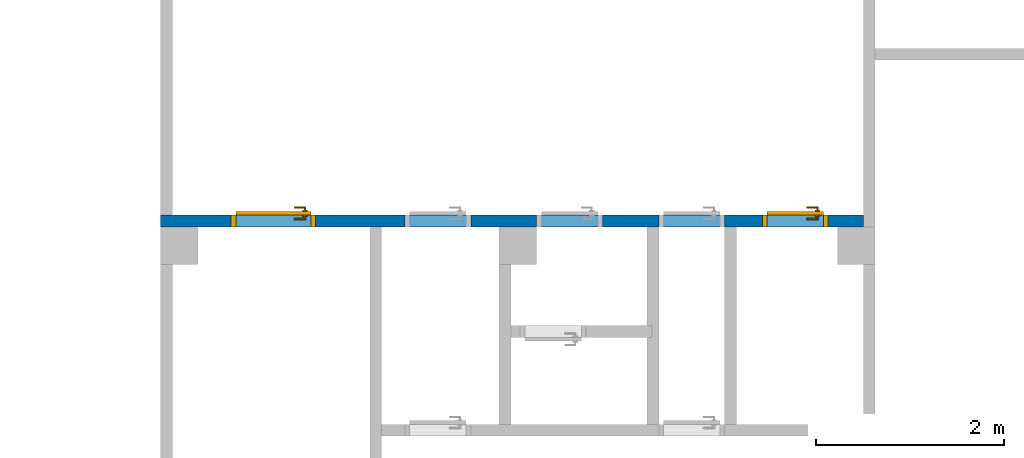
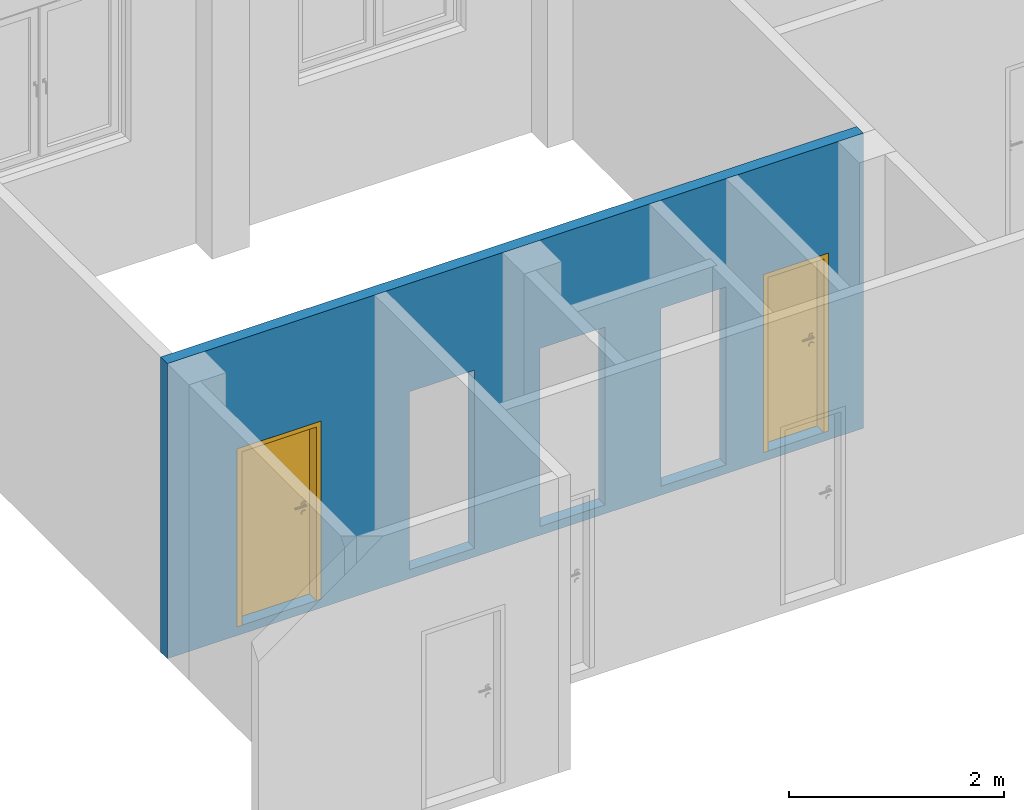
# One storey, part 4 of 37: 2 doors, 1 wall, 5 openings.
"""IFC4 building model written with IfcOpenShell, lengths in metres."""

from ifc_helpers import new_model, entity, si_unit, converted_unit, derived_unit, frame, frame_2d, origin, origin_with_axes, place, context, subcontext, project, spatial, polyline, rectangle, outline, extrude, closed_shell, open_shell, surface_model, source, transform, mapped, material, layer, layer_set, layer_usage, type_object, element, fill, save


model = new_model("IFC4")

# Units and contexts
model_context = context("Model", 3, precision=1e-05, world=origin())
body_context = subcontext(model_context, "Body", "Model", "MODEL_VIEW")
ifc_project = project(units=[si_unit("LENGTHUNIT", "METRE"), si_unit("AREAUNIT", "SQUARE_METRE"), si_unit("VOLUMEUNIT", "CUBIC_METRE"), si_unit("MASSUNIT", "GRAM", prefix="KILO"), converted_unit("PLANEANGLEUNIT", "DEGREE", entity("IfcPlaneAngleMeasure", 0.0174532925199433), si_unit("PLANEANGLEUNIT", "RADIAN"), dimensions=[0, 0, 0, 0, 0, 0, 0]), derived_unit("THERMALTRANSMITTANCEUNIT", [(si_unit("POWERUNIT", "WATT"), 1), (si_unit("THERMODYNAMICTEMPERATUREUNIT", "KELVIN"), -1), (si_unit("LENGTHUNIT", "METRE"), -2)]), derived_unit("VOLUMETRICFLOWRATEUNIT", [(si_unit("LENGTHUNIT", "METRE"), 3), (converted_unit("TIMEUNIT", "hour", entity("IfcTimeMeasure", 3600.0), si_unit("TIMEUNIT", "SECOND"), dimensions=[0, 0, 1, 0, 0, 0, 0]), -1), (si_unit("LENGTHUNIT", "METRE"), -1)])], contexts=[model_context])

# Site, building, storey
site_placement = place(None, origin())
site = spatial("IfcSite", under=ifc_project, at=site_placement, Name="3. ASŘ", CompositionType="ELEMENT")
building_placement = place(site_placement, origin())
building = spatial("IfcBuilding", under=site, at=building_placement, Name="Pavilon B", CompositionType="ELEMENT")
storey_placement = place(building_placement, origin())
storey = spatial("IfcBuildingStorey", under=building, at=storey_placement, Name="Půdorys 1.NP", CompositionType="ELEMENT", Elevation=0.0)

# Wall, openings, doors
ifc_material = material(Name="ZDIVO Z CDm")
ifc_layer = layer(ifc_material, 0.125)
ifc_layer_set = layer_set([ifc_layer])
ifc_layer_usage = layer_usage(ifc_layer_set, "AXIS2", "POSITIVE", 0.0)
wall_placement = place(storey_placement, frame((13.6, -21.4, -0.1)))
wall = element("IfcWall", 1, at=wall_placement, inside=storey, material=ifc_layer_usage, Name="ZDIVO Z CDm", context=body_context, shape_type="SweptSolid", body=[
    extrude(rectangle(XDim=7.475, YDim=0.125, at=frame_2d((3.7375, 0.0625), x_axis=(1.0, 0.0))), origin_with_axes(), (0.0, 0.0, 1.0), 3.35),
])
opening_1_placement = place(wall_placement, frame((7.1, 0.125, 0.1), z_axis=(0.0, -1.0, 0.0), x_axis=(0.0, 0.0, 1.0)))
opening_1 = element("IfcOpeningElement", 2, at=opening_1_placement, cuts=wall, Name="Dveřní otvor", ObjectType="Opening", context=body_context, shape_type="SweptSolid", body=[
    extrude(outline(polyline([(0.0, 0.7), (2.02, 0.7), (2.02, 0.0), (0.0, 0.0), (0.0, 0.7)])), origin_with_axes(), (0.0, 0.0, 1.0), 0.125),
])
opening_2_placement = place(wall_placement, frame((1.65, 0.125, 0.1), z_axis=(0.0, -1.0, 0.0), x_axis=(0.0, 0.0, 1.0)))
opening_2 = element("IfcOpeningElement", 3, at=opening_2_placement, cuts=wall, Name="Dveřní otvor", ObjectType="Opening", context=body_context, shape_type="SweptSolid", body=[
    extrude(outline(polyline([(0.0, 0.9), (2.02, 0.9), (2.02, 0.0), (0.0, 0.0), (0.0, 0.9)])), origin_with_axes(), (0.0, 0.0, 1.0), 0.125),
])
opening_3_placement = place(wall_placement, frame((3.3, 0.125, 0.1), z_axis=(0.0, -1.0, 0.0), x_axis=(0.0, 0.0, 1.0)))
element("IfcOpeningElement", 4, at=opening_3_placement, cuts=wall, Name="Dveřní otvor", ObjectType="Opening", context=body_context, shape_type="SweptSolid", body=[
    extrude(outline(polyline([(0.0, 0.700000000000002), (2.02, 0.700000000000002), (2.02, 0.0), (0.0, 0.0), (0.0, 0.700000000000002)])), origin_with_axes(), (0.0, 0.0, 1.0), 0.125),
])
opening_4_placement = place(wall_placement, frame((6.0, 0.125, 0.1), z_axis=(0.0, -1.0, 0.0), x_axis=(0.0, 0.0, 1.0)))
element("IfcOpeningElement", 5, at=opening_4_placement, cuts=wall, Name="Dveřní otvor", ObjectType="Opening", context=body_context, shape_type="SweptSolid", body=[
    extrude(outline(polyline([(0.0, 0.7), (2.02, 0.7), (2.02, 0.0), (0.0, 0.0), (0.0, 0.7)])), origin_with_axes(), (0.0, 0.0, 1.0), 0.125),
])
opening_5_placement = place(wall_placement, frame((4.7, 0.125, 0.1), z_axis=(0.0, -1.0, 0.0), x_axis=(0.0, 0.0, 1.0)))
element("IfcOpeningElement", 6, at=opening_5_placement, cuts=wall, Name="Dveřní otvor", ObjectType="Opening", context=body_context, shape_type="SweptSolid", body=[
    extrude(outline(polyline([(0.0, 0.7), (2.02, 0.7), (2.02, 0.0), (0.0, 0.0), (0.0, 0.7)])), origin_with_axes(), (0.0, 0.0, 1.0), 0.125),
])
door_type_1 = type_object("IfcDoorType", Name="D101", OperationType="NOTDEFINED", ParameterTakesPrecedence=False, PredefinedType="DOOR")
shared_shape_1 = source(origin_with_axes(), body_context, "Body", "SurfaceModel", [
    surface_model("IfcShellBasedSurfaceModel", [(0.0, 0.125, 2.02), (0.0, 0.125, -7.65404249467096e-18), (0.05, 0.125, -7.65404249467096e-18), (0.05, 0.125, 2.02), (0.0, 0.0, 7.65404249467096e-18), (0.0, 2.41584530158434e-16, 2.02), (0.05, 2.41584530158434e-16, 2.02), (0.05, 0.0, 7.65404249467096e-18)], [closed_shell([[[0, 1, 2, 3]], [[4, 5, 6, 7]], [[1, 0, 5, 4]], [[2, 1, 4, 7]], [[3, 2, 7, 6]], [[0, 3, 6, 5]]], orient=[[False], [False], [False], [False], [False], [False]])]),
    surface_model("IfcShellBasedSurfaceModel", [(0.65, 0.125, 2.02), (0.65, 0.125, -7.65404249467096e-18), (0.7, 0.125, -7.65404249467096e-18), (0.7, 0.125, 2.02), (0.65, 0.0, 7.65404249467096e-18), (0.65, 2.41584530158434e-16, 2.02), (0.7, 2.41584530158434e-16, 2.02), (0.7, 0.0, 7.65404249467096e-18)], [closed_shell([[[0, 1, 2, 3]], [[4, 5, 6, 7]], [[1, 0, 5, 4]], [[2, 1, 4, 7]], [[3, 2, 7, 6]], [[0, 3, 6, 5]]], orient=[[False], [False], [False], [False], [False], [False]])]),
    surface_model("IfcShellBasedSurfaceModel", [(0.05, 0.125, 2.02), (0.05, 0.125, 1.97), (0.65, 0.125, 1.97), (0.65, 0.125, 2.02), (0.05, 2.41584530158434e-16, 1.97), (0.05, 2.41584530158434e-16, 2.02), (0.65, 2.41584530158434e-16, 2.02), (0.65, 2.41584530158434e-16, 1.97)], [closed_shell([[[0, 1, 2, 3]], [[4, 5, 6, 7]], [[1, 0, 5, 4]], [[2, 1, 4, 7]], [[3, 2, 7, 6]], [[0, 3, 6, 5]]], orient=[[False], [False], [False], [False], [False], [False]])]),
    surface_model("IfcShellBasedSurfaceModel", [(0.05, 0.165, 1.97), (0.05, 0.165, -1.25526296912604e-17), (0.65, 0.165, -1.25526296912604e-17), (0.65, 0.165, 1.97), (0.05, 0.125, -7.65404249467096e-18), (0.05, 0.125, 1.97), (0.65, 0.125, 1.97), (0.65, 0.125, -7.65404249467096e-18)], [closed_shell([[[0, 1, 2, 3]], [[4, 5, 6, 7]], [[1, 0, 5, 4]], [[2, 1, 4, 7]], [[3, 2, 7, 6]], [[0, 3, 6, 5]]], orient=[[False], [False], [False], [False], [False], [False]])]),
    surface_model("IfcShellBasedSurfaceModel", [(0.608815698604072, 0.125, 0.93625), (0.6125, 0.125, 0.95), (0.608815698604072, 0.125, 0.96375), (0.59875, 0.125, 0.973815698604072), (0.585, 0.125, 0.9775), (0.57125, 0.125, 0.973815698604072), (0.561184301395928, 0.125, 0.96375), (0.5575, 0.125, 0.95), (0.561184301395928, 0.125, 0.93625), (0.57125, 0.125, 0.926184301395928), (0.585, 0.125, 0.9225), (0.59875, 0.125, 0.926184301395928), (0.6125, 0.1125, 0.95), (0.608815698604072, 0.1125, 0.93625), (0.59875, 0.1125, 0.926184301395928), (0.585, 0.1125, 0.9225), (0.57125, 0.1125, 0.926184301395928), (0.561184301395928, 0.1125, 0.93625), (0.5575, 0.1125, 0.95), (0.561184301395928, 0.1125, 0.96375), (0.57125, 0.1125, 0.973815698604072), (0.585, 0.1125, 0.9775), (0.59875, 0.1125, 0.973815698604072), (0.608815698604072, 0.1125, 0.96375)], [closed_shell([[[0, 1, 2, 3, 4, 5, 6, 7, 8, 9, 10, 11]], [[12, 13, 14, 15, 16, 17, 18, 19, 20, 21, 22, 23]], [[1, 0, 13, 12]], [[2, 1, 12, 23]], [[3, 2, 23, 22]], [[4, 3, 22, 21]], [[5, 4, 21, 20]], [[6, 5, 20, 19]], [[7, 6, 19, 18]], [[8, 7, 18, 17]], [[9, 8, 17, 16]], [[10, 9, 16, 15]], [[11, 10, 15, 14]], [[0, 11, 14, 13]]], orient=[[False], [False], [False], [False], [False], [False], [False], [False], [False], [False], [False], [False], [False], [False]])]),
    surface_model("IfcShellBasedSurfaceModel", [(0.608815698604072, 0.125, 1.03625), (0.6125, 0.125, 1.05), (0.608815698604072, 0.125, 1.06375), (0.59875, 0.125, 1.07381569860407), (0.585, 0.125, 1.0775), (0.57125, 0.125, 1.07381569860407), (0.561184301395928, 0.125, 1.06375), (0.5575, 0.125, 1.05), (0.561184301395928, 0.125, 1.03625), (0.57125, 0.125, 1.02618430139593), (0.585, 0.125, 1.0225), (0.59875, 0.125, 1.02618430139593), (0.6125, 0.1125, 1.05), (0.608815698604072, 0.1125, 1.03625), (0.59875, 0.1125, 1.02618430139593), (0.585, 0.1125, 1.0225), (0.57125, 0.1125, 1.02618430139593), (0.561184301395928, 0.1125, 1.03625), (0.5575, 0.1125, 1.05), (0.561184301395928, 0.1125, 1.06375), (0.57125, 0.1125, 1.07381569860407), (0.585, 0.1125, 1.0775), (0.59875, 0.1125, 1.07381569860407), (0.608815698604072, 0.1125, 1.06375)], [closed_shell([[[0, 1, 2, 3, 4, 5, 6, 7, 8, 9, 10, 11]], [[12, 13, 14, 15, 16, 17, 18, 19, 20, 21, 22, 23]], [[1, 0, 13, 12]], [[2, 1, 12, 23]], [[3, 2, 23, 22]], [[4, 3, 22, 21]], [[5, 4, 21, 20]], [[6, 5, 20, 19]], [[7, 6, 19, 18]], [[8, 7, 18, 17]], [[9, 8, 17, 16]], [[10, 9, 16, 15]], [[11, 10, 15, 14]], [[0, 11, 14, 13]]], orient=[[False], [False], [False], [False], [False], [False], [False], [False], [False], [False], [False], [False], [False], [False]])]),
    surface_model("IfcShellBasedSurfaceModel", [(0.585, 0.125, 1.06), (0.58, 0.125, 1.05866025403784), (0.576339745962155, 0.125, 1.055), (0.575, 0.125, 1.05), (0.576339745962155, 0.125, 1.045), (0.58, 0.125, 1.04133974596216), (0.585, 0.125, 1.04), (0.59, 0.125, 1.04133974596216), (0.593660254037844, 0.125, 1.045), (0.595, 0.125, 1.05), (0.593660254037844, 0.125, 1.055), (0.59, 0.125, 1.05866025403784), (0.59, 0.0800000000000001, 1.05866025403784), (0.585, 0.0850000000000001, 1.06), (0.593660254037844, 0.0763397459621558, 1.055), (0.595, 0.0750000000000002, 1.05), (0.593660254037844, 0.0763397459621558, 1.045), (0.59, 0.0800000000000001, 1.04133974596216), (0.585, 0.0850000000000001, 1.04), (0.58, 0.0900000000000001, 1.04133974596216), (0.576339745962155, 0.0936602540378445, 1.045), (0.575, 0.0950000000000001, 1.05), (0.576339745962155, 0.0936602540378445, 1.055), (0.58, 0.0900000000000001, 1.05866025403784), (0.47, 0.0800000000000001, 1.05866025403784), (0.47, 0.0850000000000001, 1.06), (0.47, 0.0763397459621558, 1.055), (0.47, 0.0750000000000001, 1.05), (0.47, 0.0763397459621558, 1.045), (0.47, 0.0800000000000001, 1.04133974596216), (0.47, 0.0850000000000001, 1.04), (0.47, 0.0900000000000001, 1.04133974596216), (0.47, 0.0936602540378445, 1.045), (0.47, 0.0950000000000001, 1.05), (0.47, 0.0936602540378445, 1.055), (0.47, 0.0900000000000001, 1.05866025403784)], [open_shell([[[0, 1, 2, 3, 4, 5, 6, 7, 8, 9, 10, 11]], [[0, 11, 12, 13]], [[11, 10, 14, 12]], [[10, 9, 15, 14]], [[9, 8, 16, 15]], [[8, 7, 17, 16]], [[7, 6, 18, 17]], [[6, 5, 19, 18]], [[5, 4, 20, 19]], [[4, 3, 21, 20]], [[3, 2, 22, 21]], [[2, 1, 23, 22]], [[1, 0, 13, 23]], [[13, 12, 24, 25]], [[12, 14, 26, 24]], [[14, 15, 27, 26]], [[15, 16, 28, 27]], [[16, 17, 29, 28]], [[17, 18, 30, 29]], [[18, 19, 31, 30]], [[19, 20, 32, 31]], [[20, 21, 33, 32]], [[21, 22, 34, 33]], [[22, 23, 35, 34]], [[23, 13, 25, 35]]], orient=[[False], [False], [False], [False], [False], [False], [False], [False], [False], [False], [False], [False], [False], [False], [False], [False], [False], [False], [False], [False], [False], [False], [False], [False], [False]])]),
    surface_model("IfcShellBasedSurfaceModel", [(0.608815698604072, 0.165, 0.93625), (0.59875, 0.165, 0.926184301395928), (0.585, 0.165, 0.9225), (0.57125, 0.165, 0.926184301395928), (0.561184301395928, 0.165, 0.93625), (0.5575, 0.165, 0.95), (0.561184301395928, 0.165, 0.96375), (0.57125, 0.165, 0.973815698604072), (0.585, 0.165, 0.9775), (0.59875, 0.165, 0.973815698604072), (0.608815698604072, 0.165, 0.96375), (0.6125, 0.165, 0.95), (0.6125, 0.1775, 0.95), (0.608815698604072, 0.1775, 0.96375), (0.59875, 0.1775, 0.973815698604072), (0.585, 0.1775, 0.9775), (0.57125, 0.1775, 0.973815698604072), (0.561184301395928, 0.1775, 0.96375), (0.5575, 0.1775, 0.95), (0.561184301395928, 0.1775, 0.93625), (0.57125, 0.1775, 0.926184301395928), (0.585, 0.1775, 0.9225), (0.59875, 0.1775, 0.926184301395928), (0.608815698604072, 0.1775, 0.93625)], [closed_shell([[[0, 1, 2, 3, 4, 5, 6, 7, 8, 9, 10, 11]], [[12, 13, 14, 15, 16, 17, 18, 19, 20, 21, 22, 23]], [[11, 12, 23, 0]], [[10, 13, 12, 11]], [[9, 14, 13, 10]], [[8, 15, 14, 9]], [[7, 16, 15, 8]], [[6, 17, 16, 7]], [[5, 18, 17, 6]], [[4, 19, 18, 5]], [[3, 20, 19, 4]], [[2, 21, 20, 3]], [[1, 22, 21, 2]], [[0, 23, 22, 1]]], orient=[[False], [False], [False], [False], [False], [False], [False], [False], [False], [False], [False], [False], [False], [False]])]),
    surface_model("IfcShellBasedSurfaceModel", [(0.608815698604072, 0.165, 1.03625), (0.59875, 0.165, 1.02618430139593), (0.585, 0.165, 1.0225), (0.57125, 0.165, 1.02618430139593), (0.561184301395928, 0.165, 1.03625), (0.5575, 0.165, 1.05), (0.561184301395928, 0.165, 1.06375), (0.57125, 0.165, 1.07381569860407), (0.585, 0.165, 1.0775), (0.59875, 0.165, 1.07381569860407), (0.608815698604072, 0.165, 1.06375), (0.6125, 0.165, 1.05), (0.6125, 0.1775, 1.05), (0.608815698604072, 0.1775, 1.06375), (0.59875, 0.1775, 1.07381569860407), (0.585, 0.1775, 1.0775), (0.57125, 0.1775, 1.07381569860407), (0.561184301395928, 0.1775, 1.06375), (0.5575, 0.1775, 1.05), (0.561184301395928, 0.1775, 1.03625), (0.57125, 0.1775, 1.02618430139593), (0.585, 0.1775, 1.0225), (0.59875, 0.1775, 1.02618430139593), (0.608815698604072, 0.1775, 1.03625)], [closed_shell([[[0, 1, 2, 3, 4, 5, 6, 7, 8, 9, 10, 11]], [[12, 13, 14, 15, 16, 17, 18, 19, 20, 21, 22, 23]], [[11, 12, 23, 0]], [[10, 13, 12, 11]], [[9, 14, 13, 10]], [[8, 15, 14, 9]], [[7, 16, 15, 8]], [[6, 17, 16, 7]], [[5, 18, 17, 6]], [[4, 19, 18, 5]], [[3, 20, 19, 4]], [[2, 21, 20, 3]], [[1, 22, 21, 2]], [[0, 23, 22, 1]]], orient=[[False], [False], [False], [False], [False], [False], [False], [False], [False], [False], [False], [False], [False], [False]])]),
    surface_model("IfcShellBasedSurfaceModel", [(0.585, 0.165, 1.06), (0.59, 0.165, 1.05866025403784), (0.593660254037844, 0.165, 1.055), (0.595, 0.165, 1.05), (0.593660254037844, 0.165, 1.045), (0.59, 0.165, 1.04133974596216), (0.585, 0.165, 1.04), (0.58, 0.165, 1.04133974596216), (0.576339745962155, 0.165, 1.045), (0.575, 0.165, 1.05), (0.576339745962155, 0.165, 1.055), (0.58, 0.165, 1.05866025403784), (0.585, 0.205, 1.06), (0.59, 0.21, 1.05866025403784), (0.593660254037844, 0.213660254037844, 1.055), (0.595, 0.215, 1.05), (0.593660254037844, 0.213660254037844, 1.045), (0.59, 0.21, 1.04133974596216), (0.585, 0.205, 1.04), (0.58, 0.2, 1.04133974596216), (0.576339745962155, 0.196339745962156, 1.045), (0.575, 0.195, 1.05), (0.576339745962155, 0.196339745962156, 1.055), (0.58, 0.2, 1.05866025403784), (0.47, 0.205, 1.06), (0.47, 0.21, 1.05866025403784), (0.47, 0.213660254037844, 1.055), (0.47, 0.215, 1.05), (0.47, 0.213660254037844, 1.045), (0.47, 0.21, 1.04133974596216), (0.47, 0.205, 1.04), (0.47, 0.2, 1.04133974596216), (0.47, 0.196339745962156, 1.045), (0.47, 0.195, 1.05), (0.47, 0.196339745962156, 1.055), (0.47, 0.2, 1.05866025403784)], [open_shell([[[0, 1, 2, 3, 4, 5, 6, 7, 8, 9, 10, 11]], [[0, 12, 13, 1]], [[1, 13, 14, 2]], [[2, 14, 15, 3]], [[3, 15, 16, 4]], [[4, 16, 17, 5]], [[5, 17, 18, 6]], [[6, 18, 19, 7]], [[7, 19, 20, 8]], [[8, 20, 21, 9]], [[9, 21, 22, 10]], [[10, 22, 23, 11]], [[11, 23, 12, 0]], [[12, 24, 25, 13]], [[13, 25, 26, 14]], [[14, 26, 27, 15]], [[15, 27, 28, 16]], [[16, 28, 29, 17]], [[17, 29, 30, 18]], [[18, 30, 31, 19]], [[19, 31, 32, 20]], [[20, 32, 33, 21]], [[21, 33, 34, 22]], [[22, 34, 35, 23]], [[23, 35, 24, 12]]], orient=[[False], [False], [False], [False], [False], [False], [False], [False], [False], [False], [False], [False], [False], [False], [False], [False], [False], [False], [False], [False], [False], [False], [False], [False], [False]])]),
])
door_1_placement = place(opening_1_placement, frame((0.0, 0.7, 0.125), z_axis=(1.0, 0.0, 0.0), x_axis=(0.0, -1.0, 2.44929359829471e-16)))
door_1 = element("IfcDoor", 7, at=door_1_placement, inside=storey, type_object=door_type_1, Name="D101", OverallHeight=2.02, OverallWidth=0.7, context=body_context, shape_type="MappedRepresentation", body=[
    mapped(shared_shape_1, transform((0.0, 0.0, 0.0), x_axis=(1.0, 0.0, 0.0), y_axis=(0.0, 1.0, 0.0), z_axis=(0.0, 0.0, 1.0), scale=1.0)),
])
fill(opening_1, door_1)
door_type_2 = type_object("IfcDoorType", Name="D101", OperationType="NOTDEFINED", ParameterTakesPrecedence=False, PredefinedType="DOOR")
shared_shape_2 = source(origin_with_axes(), body_context, "Body", "SurfaceModel", [
    surface_model("IfcShellBasedSurfaceModel", [(0.0, 0.125, 2.02), (0.0, 0.125, -7.65404249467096e-18), (0.05, 0.125, -7.65404249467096e-18), (0.05, 0.125, 2.02), (0.0, 0.0, 7.65404249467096e-18), (0.0, 2.41584530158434e-16, 2.02), (0.05, 2.41584530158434e-16, 2.02), (0.05, 0.0, 7.65404249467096e-18)], [closed_shell([[[0, 1, 2, 3]], [[4, 5, 6, 7]], [[1, 0, 5, 4]], [[2, 1, 4, 7]], [[3, 2, 7, 6]], [[0, 3, 6, 5]]], orient=[[False], [False], [False], [False], [False], [False]])]),
    surface_model("IfcShellBasedSurfaceModel", [(0.85, 0.125, 2.02), (0.85, 0.125, -7.65404249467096e-18), (0.9, 0.125, -7.65404249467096e-18), (0.9, 0.125, 2.02), (0.85, 0.0, 7.65404249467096e-18), (0.85, 2.41584530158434e-16, 2.02), (0.9, 2.41584530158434e-16, 2.02), (0.9, 0.0, 7.65404249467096e-18)], [closed_shell([[[0, 1, 2, 3]], [[4, 5, 6, 7]], [[1, 0, 5, 4]], [[2, 1, 4, 7]], [[3, 2, 7, 6]], [[0, 3, 6, 5]]], orient=[[False], [False], [False], [False], [False], [False]])]),
    surface_model("IfcShellBasedSurfaceModel", [(0.05, 0.125, 2.02), (0.05, 0.125, 1.97), (0.85, 0.125, 1.97), (0.85, 0.125, 2.02), (0.05, 2.41584530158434e-16, 1.97), (0.05, 2.41584530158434e-16, 2.02), (0.85, 2.41584530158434e-16, 2.02), (0.85, 2.41584530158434e-16, 1.97)], [closed_shell([[[0, 1, 2, 3]], [[4, 5, 6, 7]], [[1, 0, 5, 4]], [[2, 1, 4, 7]], [[3, 2, 7, 6]], [[0, 3, 6, 5]]], orient=[[False], [False], [False], [False], [False], [False]])]),
    surface_model("IfcShellBasedSurfaceModel", [(0.05, 0.165, 1.97), (0.05, 0.165, -1.25526296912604e-17), (0.85, 0.165, -1.25526296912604e-17), (0.85, 0.165, 1.97), (0.05, 0.125, -7.65404249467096e-18), (0.05, 0.125, 1.97), (0.85, 0.125, 1.97), (0.85, 0.125, -7.65404249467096e-18)], [closed_shell([[[0, 1, 2, 3]], [[4, 5, 6, 7]], [[1, 0, 5, 4]], [[2, 1, 4, 7]], [[3, 2, 7, 6]], [[0, 3, 6, 5]]], orient=[[False], [False], [False], [False], [False], [False]])]),
    surface_model("IfcShellBasedSurfaceModel", [(0.808815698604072, 0.125, 0.93625), (0.8125, 0.125, 0.95), (0.808815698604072, 0.125, 0.96375), (0.79875, 0.125, 0.973815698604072), (0.785, 0.125, 0.9775), (0.77125, 0.125, 0.973815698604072), (0.761184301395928, 0.125, 0.96375), (0.7575, 0.125, 0.95), (0.761184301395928, 0.125, 0.93625), (0.77125, 0.125, 0.926184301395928), (0.785, 0.125, 0.9225), (0.79875, 0.125, 0.926184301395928), (0.8125, 0.1125, 0.95), (0.808815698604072, 0.1125, 0.93625), (0.79875, 0.1125, 0.926184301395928), (0.785, 0.1125, 0.9225), (0.77125, 0.1125, 0.926184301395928), (0.761184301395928, 0.1125, 0.93625), (0.7575, 0.1125, 0.95), (0.761184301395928, 0.1125, 0.96375), (0.77125, 0.1125, 0.973815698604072), (0.785, 0.1125, 0.9775), (0.79875, 0.1125, 0.973815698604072), (0.808815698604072, 0.1125, 0.96375)], [closed_shell([[[0, 1, 2, 3, 4, 5, 6, 7, 8, 9, 10, 11]], [[12, 13, 14, 15, 16, 17, 18, 19, 20, 21, 22, 23]], [[1, 0, 13, 12]], [[2, 1, 12, 23]], [[3, 2, 23, 22]], [[4, 3, 22, 21]], [[5, 4, 21, 20]], [[6, 5, 20, 19]], [[7, 6, 19, 18]], [[8, 7, 18, 17]], [[9, 8, 17, 16]], [[10, 9, 16, 15]], [[11, 10, 15, 14]], [[0, 11, 14, 13]]], orient=[[False], [False], [False], [False], [False], [False], [False], [False], [False], [False], [False], [False], [False], [False]])]),
    surface_model("IfcShellBasedSurfaceModel", [(0.808815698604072, 0.125, 1.03625), (0.8125, 0.125, 1.05), (0.808815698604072, 0.125, 1.06375), (0.79875, 0.125, 1.07381569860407), (0.785, 0.125, 1.0775), (0.77125, 0.125, 1.07381569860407), (0.761184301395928, 0.125, 1.06375), (0.7575, 0.125, 1.05), (0.761184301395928, 0.125, 1.03625), (0.77125, 0.125, 1.02618430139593), (0.785, 0.125, 1.0225), (0.79875, 0.125, 1.02618430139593), (0.8125, 0.1125, 1.05), (0.808815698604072, 0.1125, 1.03625), (0.79875, 0.1125, 1.02618430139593), (0.785, 0.1125, 1.0225), (0.77125, 0.1125, 1.02618430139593), (0.761184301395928, 0.1125, 1.03625), (0.7575, 0.1125, 1.05), (0.761184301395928, 0.1125, 1.06375), (0.77125, 0.1125, 1.07381569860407), (0.785, 0.1125, 1.0775), (0.79875, 0.1125, 1.07381569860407), (0.808815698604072, 0.1125, 1.06375)], [closed_shell([[[0, 1, 2, 3, 4, 5, 6, 7, 8, 9, 10, 11]], [[12, 13, 14, 15, 16, 17, 18, 19, 20, 21, 22, 23]], [[1, 0, 13, 12]], [[2, 1, 12, 23]], [[3, 2, 23, 22]], [[4, 3, 22, 21]], [[5, 4, 21, 20]], [[6, 5, 20, 19]], [[7, 6, 19, 18]], [[8, 7, 18, 17]], [[9, 8, 17, 16]], [[10, 9, 16, 15]], [[11, 10, 15, 14]], [[0, 11, 14, 13]]], orient=[[False], [False], [False], [False], [False], [False], [False], [False], [False], [False], [False], [False], [False], [False]])]),
    surface_model("IfcShellBasedSurfaceModel", [(0.785, 0.125, 1.06), (0.78, 0.125, 1.05866025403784), (0.776339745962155, 0.125, 1.055), (0.775, 0.125, 1.05), (0.776339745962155, 0.125, 1.045), (0.78, 0.125, 1.04133974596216), (0.785, 0.125, 1.04), (0.79, 0.125, 1.04133974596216), (0.793660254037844, 0.125, 1.045), (0.795, 0.125, 1.05), (0.793660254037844, 0.125, 1.055), (0.79, 0.125, 1.05866025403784), (0.79, 0.0800000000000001, 1.05866025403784), (0.785, 0.0850000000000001, 1.06), (0.793660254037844, 0.0763397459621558, 1.055), (0.795, 0.0750000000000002, 1.05), (0.793660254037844, 0.0763397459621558, 1.045), (0.79, 0.0800000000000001, 1.04133974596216), (0.785, 0.0850000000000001, 1.04), (0.78, 0.0900000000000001, 1.04133974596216), (0.776339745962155, 0.0936602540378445, 1.045), (0.775, 0.0950000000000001, 1.05), (0.776339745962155, 0.0936602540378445, 1.055), (0.78, 0.0900000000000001, 1.05866025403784), (0.67, 0.0800000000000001, 1.05866025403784), (0.67, 0.0850000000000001, 1.06), (0.67, 0.0763397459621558, 1.055), (0.67, 0.0750000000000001, 1.05), (0.67, 0.0763397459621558, 1.045), (0.67, 0.0800000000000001, 1.04133974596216), (0.67, 0.0850000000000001, 1.04), (0.67, 0.0900000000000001, 1.04133974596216), (0.67, 0.0936602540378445, 1.045), (0.67, 0.0950000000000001, 1.05), (0.67, 0.0936602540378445, 1.055), (0.67, 0.0900000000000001, 1.05866025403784)], [open_shell([[[0, 1, 2, 3, 4, 5, 6, 7, 8, 9, 10, 11]], [[0, 11, 12, 13]], [[11, 10, 14, 12]], [[10, 9, 15, 14]], [[9, 8, 16, 15]], [[8, 7, 17, 16]], [[7, 6, 18, 17]], [[6, 5, 19, 18]], [[5, 4, 20, 19]], [[4, 3, 21, 20]], [[3, 2, 22, 21]], [[2, 1, 23, 22]], [[1, 0, 13, 23]], [[13, 12, 24, 25]], [[12, 14, 26, 24]], [[14, 15, 27, 26]], [[15, 16, 28, 27]], [[16, 17, 29, 28]], [[17, 18, 30, 29]], [[18, 19, 31, 30]], [[19, 20, 32, 31]], [[20, 21, 33, 32]], [[21, 22, 34, 33]], [[22, 23, 35, 34]], [[23, 13, 25, 35]]], orient=[[False], [False], [False], [False], [False], [False], [False], [False], [False], [False], [False], [False], [False], [False], [False], [False], [False], [False], [False], [False], [False], [False], [False], [False], [False]])]),
    surface_model("IfcShellBasedSurfaceModel", [(0.808815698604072, 0.165, 0.93625), (0.79875, 0.165, 0.926184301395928), (0.785, 0.165, 0.9225), (0.77125, 0.165, 0.926184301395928), (0.761184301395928, 0.165, 0.93625), (0.7575, 0.165, 0.95), (0.761184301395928, 0.165, 0.96375), (0.77125, 0.165, 0.973815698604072), (0.785, 0.165, 0.9775), (0.79875, 0.165, 0.973815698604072), (0.808815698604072, 0.165, 0.96375), (0.8125, 0.165, 0.95), (0.8125, 0.1775, 0.95), (0.808815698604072, 0.1775, 0.96375), (0.79875, 0.1775, 0.973815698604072), (0.785, 0.1775, 0.9775), (0.77125, 0.1775, 0.973815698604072), (0.761184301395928, 0.1775, 0.96375), (0.7575, 0.1775, 0.95), (0.761184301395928, 0.1775, 0.93625), (0.77125, 0.1775, 0.926184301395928), (0.785, 0.1775, 0.9225), (0.79875, 0.1775, 0.926184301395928), (0.808815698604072, 0.1775, 0.93625)], [closed_shell([[[0, 1, 2, 3, 4, 5, 6, 7, 8, 9, 10, 11]], [[12, 13, 14, 15, 16, 17, 18, 19, 20, 21, 22, 23]], [[11, 12, 23, 0]], [[10, 13, 12, 11]], [[9, 14, 13, 10]], [[8, 15, 14, 9]], [[7, 16, 15, 8]], [[6, 17, 16, 7]], [[5, 18, 17, 6]], [[4, 19, 18, 5]], [[3, 20, 19, 4]], [[2, 21, 20, 3]], [[1, 22, 21, 2]], [[0, 23, 22, 1]]], orient=[[False], [False], [False], [False], [False], [False], [False], [False], [False], [False], [False], [False], [False], [False]])]),
    surface_model("IfcShellBasedSurfaceModel", [(0.808815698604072, 0.165, 1.03625), (0.79875, 0.165, 1.02618430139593), (0.785, 0.165, 1.0225), (0.77125, 0.165, 1.02618430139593), (0.761184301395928, 0.165, 1.03625), (0.7575, 0.165, 1.05), (0.761184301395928, 0.165, 1.06375), (0.77125, 0.165, 1.07381569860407), (0.785, 0.165, 1.0775), (0.79875, 0.165, 1.07381569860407), (0.808815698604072, 0.165, 1.06375), (0.8125, 0.165, 1.05), (0.8125, 0.1775, 1.05), (0.808815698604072, 0.1775, 1.06375), (0.79875, 0.1775, 1.07381569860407), (0.785, 0.1775, 1.0775), (0.77125, 0.1775, 1.07381569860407), (0.761184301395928, 0.1775, 1.06375), (0.7575, 0.1775, 1.05), (0.761184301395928, 0.1775, 1.03625), (0.77125, 0.1775, 1.02618430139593), (0.785, 0.1775, 1.0225), (0.79875, 0.1775, 1.02618430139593), (0.808815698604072, 0.1775, 1.03625)], [closed_shell([[[0, 1, 2, 3, 4, 5, 6, 7, 8, 9, 10, 11]], [[12, 13, 14, 15, 16, 17, 18, 19, 20, 21, 22, 23]], [[11, 12, 23, 0]], [[10, 13, 12, 11]], [[9, 14, 13, 10]], [[8, 15, 14, 9]], [[7, 16, 15, 8]], [[6, 17, 16, 7]], [[5, 18, 17, 6]], [[4, 19, 18, 5]], [[3, 20, 19, 4]], [[2, 21, 20, 3]], [[1, 22, 21, 2]], [[0, 23, 22, 1]]], orient=[[False], [False], [False], [False], [False], [False], [False], [False], [False], [False], [False], [False], [False], [False]])]),
    surface_model("IfcShellBasedSurfaceModel", [(0.785, 0.165, 1.06), (0.79, 0.165, 1.05866025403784), (0.793660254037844, 0.165, 1.055), (0.795, 0.165, 1.05), (0.793660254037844, 0.165, 1.045), (0.79, 0.165, 1.04133974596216), (0.785, 0.165, 1.04), (0.78, 0.165, 1.04133974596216), (0.776339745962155, 0.165, 1.045), (0.775, 0.165, 1.05), (0.776339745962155, 0.165, 1.055), (0.78, 0.165, 1.05866025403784), (0.785, 0.205, 1.06), (0.79, 0.21, 1.05866025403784), (0.793660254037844, 0.213660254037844, 1.055), (0.795, 0.215, 1.05), (0.793660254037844, 0.213660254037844, 1.045), (0.79, 0.21, 1.04133974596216), (0.785, 0.205, 1.04), (0.78, 0.2, 1.04133974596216), (0.776339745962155, 0.196339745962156, 1.045), (0.775, 0.195, 1.05), (0.776339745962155, 0.196339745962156, 1.055), (0.78, 0.2, 1.05866025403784), (0.67, 0.205, 1.06), (0.67, 0.21, 1.05866025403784), (0.67, 0.213660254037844, 1.055), (0.67, 0.215, 1.05), (0.67, 0.213660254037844, 1.045), (0.67, 0.21, 1.04133974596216), (0.67, 0.205, 1.04), (0.67, 0.2, 1.04133974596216), (0.67, 0.196339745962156, 1.045), (0.67, 0.195, 1.05), (0.67, 0.196339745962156, 1.055), (0.67, 0.2, 1.05866025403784)], [open_shell([[[0, 1, 2, 3, 4, 5, 6, 7, 8, 9, 10, 11]], [[0, 12, 13, 1]], [[1, 13, 14, 2]], [[2, 14, 15, 3]], [[3, 15, 16, 4]], [[4, 16, 17, 5]], [[5, 17, 18, 6]], [[6, 18, 19, 7]], [[7, 19, 20, 8]], [[8, 20, 21, 9]], [[9, 21, 22, 10]], [[10, 22, 23, 11]], [[11, 23, 12, 0]], [[12, 24, 25, 13]], [[13, 25, 26, 14]], [[14, 26, 27, 15]], [[15, 27, 28, 16]], [[16, 28, 29, 17]], [[17, 29, 30, 18]], [[18, 30, 31, 19]], [[19, 31, 32, 20]], [[20, 32, 33, 21]], [[21, 33, 34, 22]], [[22, 34, 35, 23]], [[23, 35, 24, 12]]], orient=[[False], [False], [False], [False], [False], [False], [False], [False], [False], [False], [False], [False], [False], [False], [False], [False], [False], [False], [False], [False], [False], [False], [False], [False], [False]])]),
])
door_2_placement = place(opening_2_placement, frame((0.0, 0.9, 0.125), z_axis=(1.0, 0.0, 0.0), x_axis=(0.0, -1.0, 2.44929359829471e-16)))
door_2 = element("IfcDoor", 8, at=door_2_placement, inside=storey, type_object=door_type_2, Name="D101", OverallHeight=2.02, OverallWidth=0.9, context=body_context, shape_type="MappedRepresentation", body=[
    mapped(shared_shape_2, transform((0.0, 0.0, 0.0), x_axis=(1.0, 0.0, 0.0), y_axis=(0.0, 1.0, 0.0), z_axis=(0.0, 0.0, 1.0), scale=1.0)),
])
fill(opening_2, door_2)

save(model, "model.ifc")
